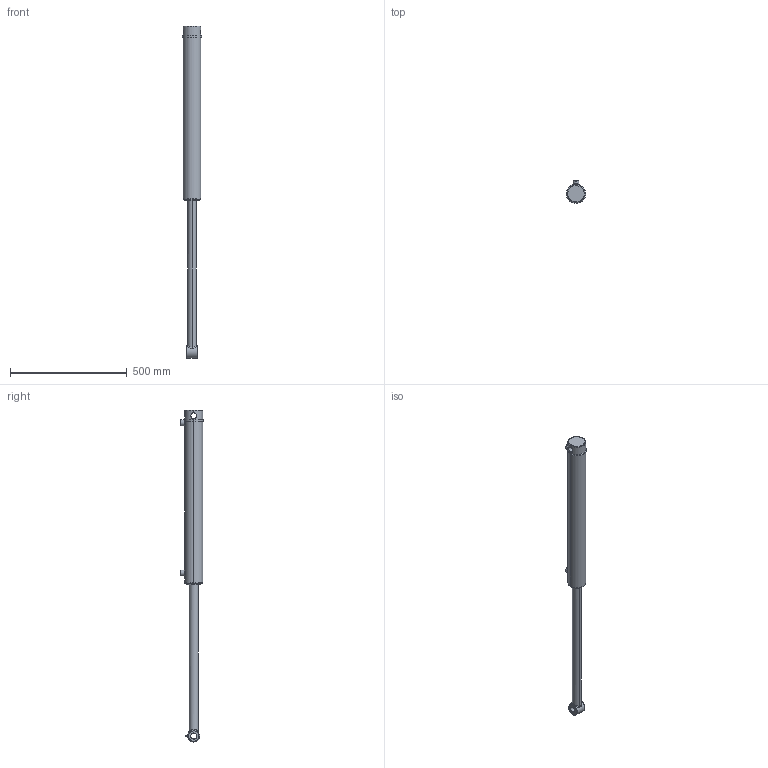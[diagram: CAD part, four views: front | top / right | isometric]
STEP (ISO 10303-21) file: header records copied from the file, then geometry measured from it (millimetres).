
FILE_DESCRIPTION (( 'STEP AP203' ), '1' );
FILE_NAME ('SB-C250150x610 (24) extended.STEP', '2014-11-19T01:57:26', ( '' ), ( '' ), 'SwSTEP 2.0', 'SolidWorks 2014', '' );
FILE_SCHEMA (( 'CONFIG_CONTROL_DESIGN' ));
Length unit declared in the file: millimetre
Products named in the file (7): 2.5 INCH CIRCLIP; SB-C250150x610 (24) BODY; 24 SPARE; SB-C250250X610 (24) BODY; 18 NPT GREASE NIPPLE; SPARE 24; SB-C250150x610 (24) extended
Assembly tree (6 placements, depth 3):
  SB-C250150x610 (24) extended
    SB-C250150x610 (24) BODY
      SB-C250250X610 (24) BODY
      2.5 INCH CIRCLIP
    SPARE 24
      24 SPARE
      18 NPT GREASE NIPPLE
Bounding box: 82.17 x 97.19 x 1421.4 mm (x, y, z)
Volume: 3956926.6 mm3; surface area: 330548.8 mm2
Topology: 4 solids, 4 shells, 135 faces, 315 edges, 197 vertices
Faces by surface type: cylinder 51, plane 29, cone 22, bspline 19, torus 12, sphere 2
Entity records: 10875 total; most frequent: CARTESIAN_POINT 7141, DIRECTION 640, ORIENTED_EDGE 622, EDGE_CURVE 311, AXIS2_PLACEMENT_3D 271, VERTEX_POINT 197, EDGE_LOOP 160, CIRCLE 144
